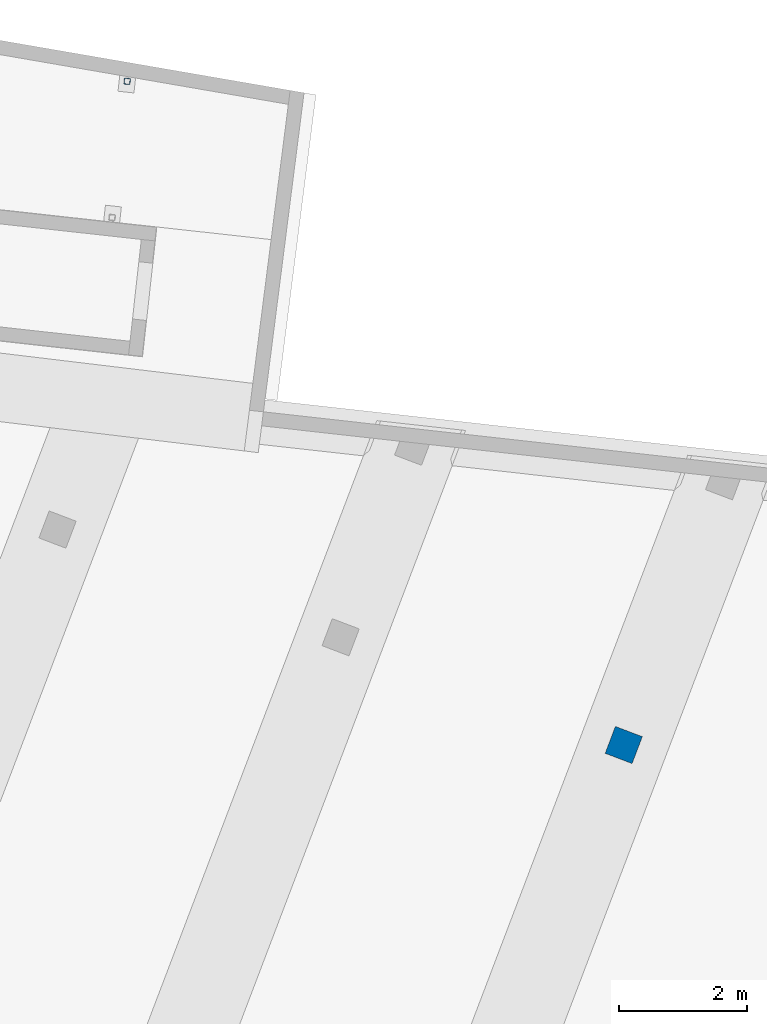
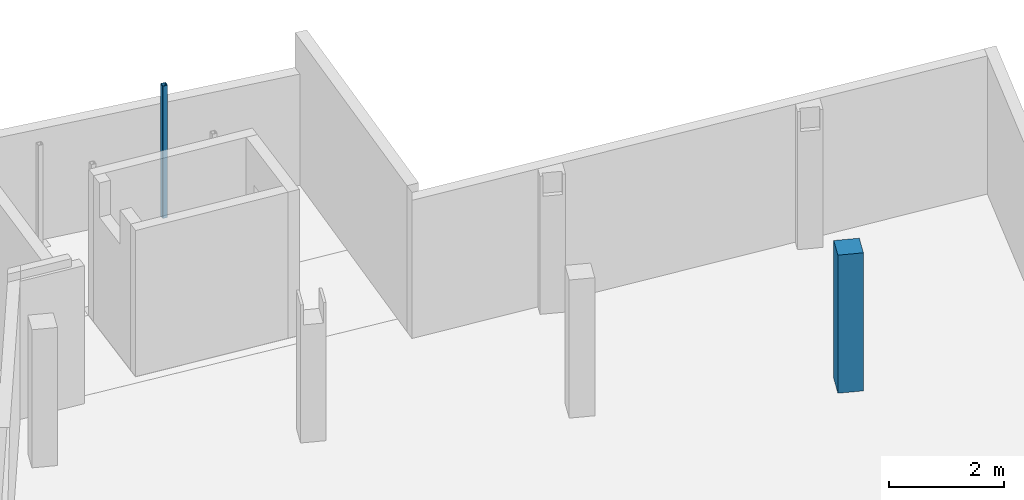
# One storey, part 2 of 11: 2 columns.
"""IFC2X3 building model written with IfcOpenShell, lengths in millimetres."""

from ifc_helpers import new_model, entity, si_unit, converted_unit, derived_unit, direction, frame, frame_2d, origin, place, context, subcontext, project, spatial, polyline, circle_curve, parameter, trimmed, segment, composite_curve, rectangle, outline, extrude, source, transform, mapped, material, type_object, type_shapes, element, save


model = new_model("IFC2X3")

# Units and contexts
model_context = context("Model", 3, precision=0.01, world=origin(), true_north=direction((6.123233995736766e-17, 1.0)))
body_context = subcontext(model_context, "Body", "Model", "MODEL_VIEW")
ifc_project = project(units=[si_unit("LENGTHUNIT", "METRE", prefix="MILLI"), converted_unit("PLANEANGLEUNIT", "DEGREE", entity("IfcPlaneAngleMeasure", 0.017453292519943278), si_unit("PLANEANGLEUNIT", "RADIAN"), dimensions=[0, 0, 0, 0, 0, 0, 0]), si_unit("AREAUNIT", "SQUARE_METRE"), derived_unit("THERMALTRANSMITTANCEUNIT", [(si_unit("MASSUNIT", "GRAM", prefix="KILO"), 1), (si_unit("THERMODYNAMICTEMPERATUREUNIT", "KELVIN"), -1), (si_unit("TIMEUNIT", "SECOND"), -3)])], contexts=[model_context])

# Site, building, storey
site_placement = place(None, frame((-72937.88054949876, 11621.45624098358, 0.0), z_axis=(0.0, 0.0, 1.0), x_axis=(0.9346418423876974, -0.35559053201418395, 0.0)))
site = spatial("IfcSite", under=ifc_project, at=site_placement, Name="Default", CompositionType="ELEMENT")
building_placement = place(site_placement, origin())
building = spatial("IfcBuilding", under=site, at=building_placement, CompositionType="ELEMENT")
storey_placement = place(building_placement, frame((0.0, 0.0, -3160.0)))
storey = spatial("IfcBuildingStorey", under=building, at=storey_placement, Name="-1 kelder", CompositionType="ELEMENT", Elevation=-3160.0)

# Columns
ifc_material_1 = material(Name="beton_gewapend_ihw")
column_type_1 = type_object("IfcColumnType", Name="450x450mm", PredefinedType="COLUMN", material=ifc_material_1)
shared_shape_1 = source(origin(), body_context, "Body", "SweptSolid", [
    extrude(rectangle(XDim=2930.0, YDim=450.00000000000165, at=frame_2d((1.1368683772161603e-13, 0.0), x_axis=(1.0, 0.0))), frame((28965.0, 28760.0, -1695.0), z_axis=(1.0, 0.0, 0.0), x_axis=(0.0, 0.0, 1.0)), (0.0, 0.0, 1.0), 450.00000000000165),
])
type_shapes(column_type_1, [shared_shape_1])
column_1_placement = place(storey_placement, frame((0.0, 0.0, 3160.0)))
element("IfcColumn", 1, at=column_1_placement, inside=storey, type_object=column_type_1, material=ifc_material_1, Name="28.11_SCO_BetonKolomRechthoek:450x450mm", ObjectType="28.11_SCO_BetonKolomRechthoek:450x450mm", context=body_context, shape_type="MappedRepresentation", body=[
    mapped(shared_shape_1, transform((0.0, 0.0, 0.0), scale=1.0)),
])
ifc_material_2 = material(Name="metaal_staal_generiek")
column_type_2 = type_object("IfcColumnType", Name="K100x10", PredefinedType="COLUMN", material=ifc_material_2)
shared_shape_2 = source(origin(), body_context, "Body", "SweptSolid", [
    extrude(outline(composite_curve([segment(polyline([(-35.0, -50.0), (35.0, -50.0)]), True, "CONTINUOUS"), segment(trimmed(circle_curve(frame_2d((35.0, -35.0), x_axis=(-1.0, 0.0)), 15.0), [parameter(90.00000000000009)], [parameter(180.00000000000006)], True, "PARAMETER"), True, "CONTINUOUS"), segment(polyline([(50.0, -35.0), (50.0, 35.0)]), True, "CONTINUOUS"), segment(trimmed(circle_curve(frame_2d((35.0, 35.0), x_axis=(-1.0, 0.0)), 15.0), [parameter(179.99999999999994)], [parameter(270.00000000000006)], True, "PARAMETER"), True, "CONTINUOUS"), segment(polyline([(35.0, 50.0), (-35.0, 50.0)]), True, "CONTINUOUS"), segment(trimmed(circle_curve(frame_2d((-35.0, 35.0), x_axis=(-1.0, 0.0)), 15.0), [parameter(269.99999999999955)], [parameter(359.9999999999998)], True, "PARAMETER"), True, "CONTINUOUS"), segment(polyline([(-50.0, 35.0), (-50.0, -35.0)]), True, "CONTINUOUS"), segment(trimmed(circle_curve(frame_2d((-35.0, -35.0), x_axis=(-1.0, 0.0)), 15.0), [parameter(359.99999999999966)], [parameter(89.99999999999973)], True, "PARAMETER"), True, "CONTINUOUS")], self_intersect=False), holes=[composite_curve([segment(trimmed(circle_curve(frame_2d((-30.0, -30.0), x_axis=(-1.0, 0.0)), 10.0), [parameter(0.0)], [parameter(90.00000000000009)], True, "PARAMETER"), False, "CONTINUOUS"), segment(polyline([(-40.0, -30.0), (-40.0, 30.0)]), True, "CONTINUOUS"), segment(trimmed(circle_curve(frame_2d((-30.0, 30.0), x_axis=(-1.0, 0.0)), 10.0), [parameter(269.9999999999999)], [parameter(0.0)], True, "PARAMETER"), False, "CONTINUOUS"), segment(polyline([(-30.0, 40.0), (30.0, 40.0)]), True, "CONTINUOUS"), segment(trimmed(circle_curve(frame_2d((30.0, 30.0), x_axis=(-1.0, 0.0)), 10.0), [parameter(179.99999999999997)], [parameter(270.00000000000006)], True, "PARAMETER"), False, "CONTINUOUS"), segment(polyline([(40.0, 30.0), (40.0, -30.0)]), True, "CONTINUOUS"), segment(trimmed(circle_curve(frame_2d((30.0, -30.0), x_axis=(-1.0, 0.0)), 10.0), [parameter(90.00000000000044)], [parameter(180.0)], True, "PARAMETER"), False, "CONTINUOUS"), segment(polyline([(30.0, -40.0), (-30.0, -40.0)]), True, "CONTINUOUS")], self_intersect=False)]), frame((18257.1636183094, 35688.987790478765, -3160.0), z_axis=(0.0, 0.0, 1.0), x_axis=(-0.9679826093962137, -0.2510172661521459, 0.0)), (0.0, 0.0, 1.0), 2806.99999999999),
])
type_shapes(column_type_2, [shared_shape_2])
column_2_placement = place(storey_placement, frame((0.0, 0.0, 3160.0)))
element("IfcColumn", 2, at=column_2_placement, inside=storey, type_object=column_type_2, material=ifc_material_2, Name="28.11_Kolom koker gelijkzijdig", ObjectType="stalen kolom, koker gelijkzijdig", context=body_context, shape_type="MappedRepresentation", body=[
    mapped(shared_shape_2, transform((0.0, 0.0, 0.0), scale=1.0)),
])

save(model, "model.ifc")
